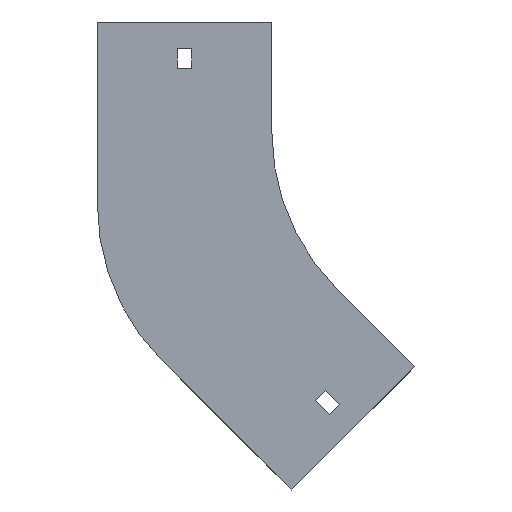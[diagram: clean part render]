
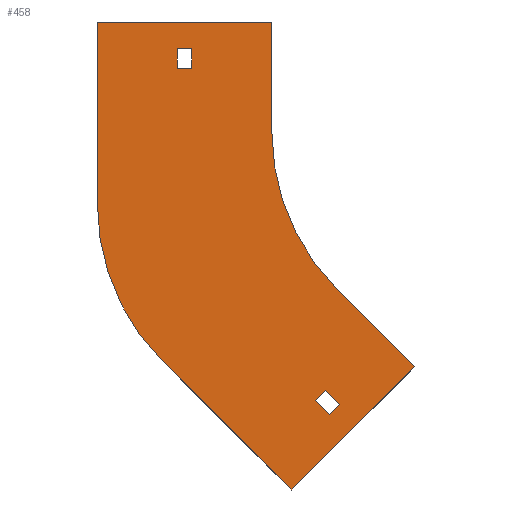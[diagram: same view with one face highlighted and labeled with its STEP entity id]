
A CAD part, front view. The second image highlights one B-rep face of the part: STEP entity #458.
In plain terms, the highlighted planar face has unit normal (0, -1, 0).
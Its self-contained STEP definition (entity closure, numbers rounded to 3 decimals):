
#10 = EDGE_CURVE ( 'NONE', #86, #1066, #405, .T. ) ;
#14 = CARTESIAN_POINT ( 'NONE',  ( -35.355, 0., -106.066 ) ) ;
#31 = DIRECTION ( 'NONE',  ( 0., 0., 1. ) ) ;
#33 = VERTEX_POINT ( 'NONE', #90 ) ;
#38 = EDGE_CURVE ( 'NONE', #540, #551, #396, .T. ) ;
#44 = DIRECTION ( 'NONE',  ( 0.707, 0., -0.707 ) ) ;
#46 = VECTOR ( 'NONE', #427, 1000. ) ;
#51 = LINE ( 'NONE', #1216, #918 ) ;
#61 = CARTESIAN_POINT ( 'NONE',  ( -70.711, 0., -70.711 ) ) ;
#69 = EDGE_CURVE ( 'NONE', #548, #677, #166, .T. ) ;
#86 = VERTEX_POINT ( 'NONE', #313 ) ;
#90 = CARTESIAN_POINT ( 'NONE',  ( -149.711, 0., -103.434 ) ) ;
#111 = CARTESIAN_POINT ( 'NONE',  ( -91.217, 0., -161.927 ) ) ;
#126 = PLANE ( 'NONE',  #1135 ) ;
#137 = ORIENTED_EDGE ( 'NONE', *, *, #10, .F. ) ;
#145 = EDGE_CURVE ( 'NONE', #198, #548, #1179, .T. ) ;
#150 = AXIS2_PLACEMENT_3D ( 'NONE', #1086, #1217, #31 ) ;
#166 = LINE ( 'NONE', #1049, #1017 ) ;
#173 = DIRECTION ( 'NONE',  ( -1., 0., 0. ) ) ;
#198 = VERTEX_POINT ( 'NONE', #371 ) ;
#232 = LINE ( 'NONE', #1141, #290 ) ;
#233 = ORIENTED_EDGE ( 'NONE', *, *, #708, .T. ) ;
#234 = DIRECTION ( 'NONE',  ( 1., 0., 0. ) ) ;
#244 = VECTOR ( 'NONE', #307, 1000. ) ;
#255 = CARTESIAN_POINT ( 'NONE',  ( -179., 0., 50. ) ) ;
#261 = CARTESIAN_POINT ( 'NONE',  ( -142.75, 0., 38. ) ) ;
#276 = LINE ( 'NONE', #261, #785 ) ;
#281 = EDGE_LOOP ( 'NONE', ( #233, #1382, #740, #835 ) ) ;
#290 = VECTOR ( 'NONE', #468, 1000. ) ;
#298 = EDGE_CURVE ( 'NONE', #951, #198, #1002, .T. ) ;
#307 = DIRECTION ( 'NONE',  ( 0., 0., 1. ) ) ;
#308 = VERTEX_POINT ( 'NONE', #791 ) ;
#313 = CARTESIAN_POINT ( 'NONE',  ( -100., 0., 50. ) ) ;
#316 = EDGE_CURVE ( 'NONE', #498, #86, #51, .T. ) ;
#330 = VERTEX_POINT ( 'NONE', #367 ) ;
#332 = DIRECTION ( 'NONE',  ( 0., 0., 1. ) ) ;
#356 = EDGE_LOOP ( 'NONE', ( #1285, #907, #376, #866, #732, #1136, #1148, #137 ) ) ;
#357 = DIRECTION ( 'NONE',  ( 0., 0., -1. ) ) ;
#367 = CARTESIAN_POINT ( 'NONE',  ( -70.711, 0., -70.711 ) ) ;
#371 = CARTESIAN_POINT ( 'NONE',  ( -74.069, 0., -127.81 ) ) ;
#374 = CARTESIAN_POINT ( 'NONE',  ( -69.473, 0., -123.213 ) ) ;
#376 = ORIENTED_EDGE ( 'NONE', *, *, #812, .F. ) ;
#381 = LINE ( 'NONE', #1253, #1147 ) ;
#382 = DIRECTION ( 'NONE',  ( 0., 0., -1. ) ) ;
#389 = CARTESIAN_POINT ( 'NONE',  ( -35.355, 0., -106.066 ) ) ;
#396 = LINE ( 'NONE', #1288, #787 ) ;
#405 = LINE ( 'NONE', #1170, #469 ) ;
#427 = DIRECTION ( 'NONE',  ( 0.707, 0., -0.707 ) ) ;
#440 = VECTOR ( 'NONE', #332, 1000. ) ;
#442 = EDGE_LOOP ( 'NONE', ( #684, #888, #1025, #949 ) ) ;
#458 = ADVANCED_FACE ( 'NONE', ( #550, #1107, #1316 ), #126, .T. ) ;
#468 = DIRECTION ( 'NONE',  ( 0., 0., -1. ) ) ;
#469 = VECTOR ( 'NONE', #382, 1000. ) ;
#478 = LINE ( 'NONE', #61, #46 ) ;
#495 = DIRECTION ( 'NONE',  ( 0., -1., 0. ) ) ;
#498 = VERTEX_POINT ( 'NONE', #255 ) ;
#508 = DIRECTION ( 'NONE',  ( -0.707, 0., -0.707 ) ) ;
#514 = DIRECTION ( 'NONE',  ( -0.707, 0., 0.707 ) ) ;
#519 = LINE ( 'NONE', #111, #1048 ) ;
#522 = CARTESIAN_POINT ( 'NONE',  ( -75.837, 0., -116.849 ) ) ;
#540 = VERTEX_POINT ( 'NONE', #1004 ) ;
#548 = VERTEX_POINT ( 'NONE', #374 ) ;
#550 = FACE_BOUND ( 'NONE', #281, .T. ) ;
#551 = VERTEX_POINT ( 'NONE', #800 ) ;
#568 = VECTOR ( 'NONE', #640, 1000. ) ;
#590 = CARTESIAN_POINT ( 'NONE',  ( -179., 0., -32.723 ) ) ;
#609 = EDGE_CURVE ( 'NONE', #723, #308, #276, .T. ) ;
#614 = DIRECTION ( 'NONE',  ( 0., 0., -1. ) ) ;
#640 = DIRECTION ( 'NONE',  ( -0.707, 0., -0.707 ) ) ;
#641 = VERTEX_POINT ( 'NONE', #590 ) ;
#642 = DIRECTION ( 'NONE',  ( 0.707, 0., 0.707 ) ) ;
#646 = VECTOR ( 'NONE', #642, 1000. ) ;
#652 = EDGE_CURVE ( 'NONE', #330, #1061, #478, .T. ) ;
#656 = CARTESIAN_POINT ( 'NONE',  ( -80.433, 0., -121.446 ) ) ;
#677 = VERTEX_POINT ( 'NONE', #522 ) ;
#684 = ORIENTED_EDGE ( 'NONE', *, *, #145, .F. ) ;
#687 = CIRCLE ( 'NONE', #150, 100. ) ;
#702 = AXIS2_PLACEMENT_3D ( 'NONE', #1248, #495, #614 ) ;
#708 = EDGE_CURVE ( 'NONE', #551, #723, #1283, .T. ) ;
#723 = VERTEX_POINT ( 'NONE', #1188 ) ;
#731 = CARTESIAN_POINT ( 'NONE',  ( -142.75, 0., 29. ) ) ;
#732 = ORIENTED_EDGE ( 'NONE', *, *, #1381, .F. ) ;
#740 = ORIENTED_EDGE ( 'NONE', *, *, #777, .T. ) ;
#750 = CARTESIAN_POINT ( 'NONE',  ( -74.069, 0., -127.81 ) ) ;
#760 = DIRECTION ( 'NONE',  ( 0., -1., 0. ) ) ;
#777 = EDGE_CURVE ( 'NONE', #308, #540, #232, .T. ) ;
#783 = VERTEX_POINT ( 'NONE', #1355 ) ;
#785 = VECTOR ( 'NONE', #905, 1000. ) ;
#787 = VECTOR ( 'NONE', #173, 1000. ) ;
#791 = CARTESIAN_POINT ( 'NONE',  ( -136.25, 0., 38. ) ) ;
#800 = CARTESIAN_POINT ( 'NONE',  ( -142.75, 0., 29. ) ) ;
#812 = EDGE_CURVE ( 'NONE', #33, #641, #687, .T. ) ;
#835 = ORIENTED_EDGE ( 'NONE', *, *, #38, .T. ) ;
#866 = ORIENTED_EDGE ( 'NONE', *, *, #1166, .F. ) ;
#868 = LINE ( 'NONE', #1312, #440 ) ;
#888 = ORIENTED_EDGE ( 'NONE', *, *, #298, .F. ) ;
#905 = DIRECTION ( 'NONE',  ( 1., 0., 0. ) ) ;
#907 = ORIENTED_EDGE ( 'NONE', *, *, #1222, .F. ) ;
#918 = VECTOR ( 'NONE', #234, 1000. ) ;
#949 = ORIENTED_EDGE ( 'NONE', *, *, #69, .F. ) ;
#951 = VERTEX_POINT ( 'NONE', #1269 ) ;
#968 = DIRECTION ( 'NONE',  ( -0.707, 0., 0.707 ) ) ;
#1002 = LINE ( 'NONE', #656, #1348 ) ;
#1004 = CARTESIAN_POINT ( 'NONE',  ( -136.25, 0., 29. ) ) ;
#1017 = VECTOR ( 'NONE', #514, 1000. ) ;
#1025 = ORIENTED_EDGE ( 'NONE', *, *, #1051, .F. ) ;
#1048 = VECTOR ( 'NONE', #968, 1000. ) ;
#1049 = CARTESIAN_POINT ( 'NONE',  ( -75.837, 0., -116.849 ) ) ;
#1051 = EDGE_CURVE ( 'NONE', #677, #951, #381, .T. ) ;
#1058 = EDGE_CURVE ( 'NONE', #1066, #330, #1240, .T. ) ;
#1061 = VERTEX_POINT ( 'NONE', #389 ) ;
#1066 = VERTEX_POINT ( 'NONE', #1394 ) ;
#1086 = CARTESIAN_POINT ( 'NONE',  ( -79., 0., -32.723 ) ) ;
#1107 = FACE_OUTER_BOUND ( 'NONE', #356, .T. ) ;
#1121 = CARTESIAN_POINT ( 'NONE',  ( 0., 0., 0. ) ) ;
#1135 = AXIS2_PLACEMENT_3D ( 'NONE', #1121, #760, #357 ) ;
#1136 = ORIENTED_EDGE ( 'NONE', *, *, #652, .F. ) ;
#1141 = CARTESIAN_POINT ( 'NONE',  ( -136.25, 0., 29. ) ) ;
#1147 = VECTOR ( 'NONE', #508, 1000. ) ;
#1148 = ORIENTED_EDGE ( 'NONE', *, *, #1058, .F. ) ;
#1166 = EDGE_CURVE ( 'NONE', #783, #33, #519, .T. ) ;
#1170 = CARTESIAN_POINT ( 'NONE',  ( -100., 0., 50. ) ) ;
#1179 = LINE ( 'NONE', #750, #646 ) ;
#1188 = CARTESIAN_POINT ( 'NONE',  ( -142.75, 0., 38. ) ) ;
#1216 = CARTESIAN_POINT ( 'NONE',  ( -179., 0., 50. ) ) ;
#1217 = DIRECTION ( 'NONE',  ( 0., 1., 0. ) ) ;
#1222 = EDGE_CURVE ( 'NONE', #641, #498, #868, .T. ) ;
#1240 = CIRCLE ( 'NONE', #702, 100. ) ;
#1248 = CARTESIAN_POINT ( 'NONE',  ( 0., 0., 0. ) ) ;
#1253 = CARTESIAN_POINT ( 'NONE',  ( -80.433, 0., -121.446 ) ) ;
#1269 = CARTESIAN_POINT ( 'NONE',  ( -80.433, 0., -121.446 ) ) ;
#1283 = LINE ( 'NONE', #731, #244 ) ;
#1285 = ORIENTED_EDGE ( 'NONE', *, *, #316, .F. ) ;
#1288 = CARTESIAN_POINT ( 'NONE',  ( -142.75, 0., 29. ) ) ;
#1312 = CARTESIAN_POINT ( 'NONE',  ( -179., 0., -32.723 ) ) ;
#1316 = FACE_BOUND ( 'NONE', #442, .T. ) ;
#1327 = LINE ( 'NONE', #14, #568 ) ;
#1348 = VECTOR ( 'NONE', #44, 1000. ) ;
#1355 = CARTESIAN_POINT ( 'NONE',  ( -91.217, 0., -161.927 ) ) ;
#1381 = EDGE_CURVE ( 'NONE', #1061, #783, #1327, .T. ) ;
#1382 = ORIENTED_EDGE ( 'NONE', *, *, #609, .T. ) ;
#1394 = CARTESIAN_POINT ( 'NONE',  ( -100., 0., 0. ) ) ;
